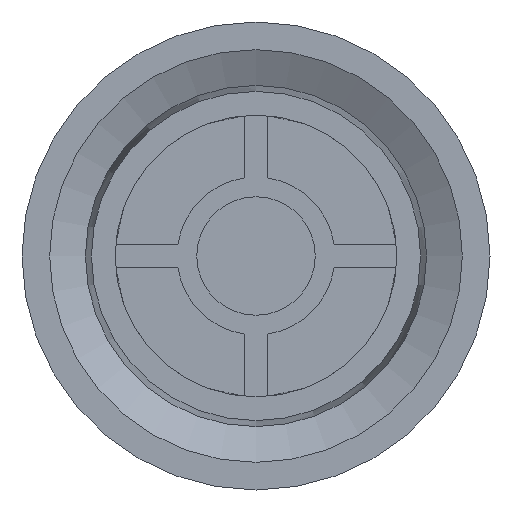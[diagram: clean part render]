
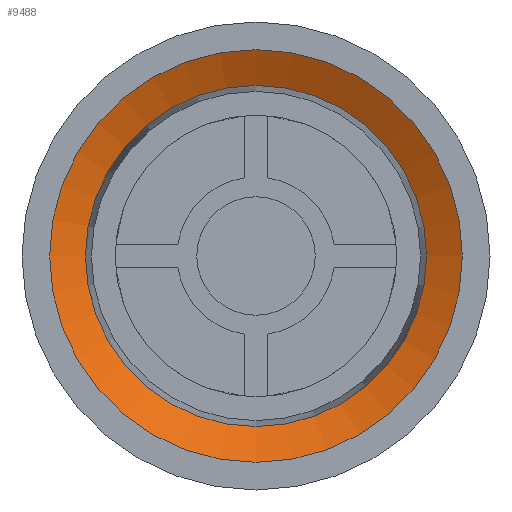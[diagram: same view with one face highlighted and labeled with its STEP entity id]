
A CAD part, front view. The second image highlights one B-rep face of the part: STEP entity #9488.
In plain terms, the highlighted conical face has half-angle 64.058 degrees and reference radius 10.45 mm.
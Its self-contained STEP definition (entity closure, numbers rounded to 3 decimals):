
#32 = ORIENTED_EDGE ( 'NONE', *, *, #3755, .F. ) ;
#662 = CARTESIAN_POINT ( 'NONE',  ( 0., 1.524, 0. ) ) ;
#741 = DIRECTION ( 'NONE',  ( 0., -1., 0. ) ) ;
#823 = CARTESIAN_POINT ( 'NONE',  ( 0., 1.524, -10.45 ) ) ;
#1167 = EDGE_LOOP ( 'NONE', ( #32 ) ) ;
#1523 = DIRECTION ( 'NONE',  ( 0., 0., -1. ) ) ;
#1665 = DIRECTION ( 'NONE',  ( 0., 0., -1. ) ) ;
#3174 = CARTESIAN_POINT ( 'NONE',  ( 0., 1.524, 0. ) ) ;
#3755 = EDGE_CURVE ( 'NONE', #6244, #6244, #10163, .T. ) ;
#4162 = DIRECTION ( 'NONE',  ( 0., -1., 0. ) ) ;
#4455 = AXIS2_PLACEMENT_3D ( 'NONE', #6340, #741, #1665 ) ;
#4962 = DIRECTION ( 'NONE',  ( 0., -1., 0. ) ) ;
#6008 = EDGE_CURVE ( 'NONE', #7463, #7463, #7414, .T. ) ;
#6194 = FACE_OUTER_BOUND ( 'NONE', #8715, .T. ) ;
#6244 = VERTEX_POINT ( 'NONE', #9992 ) ;
#6340 = CARTESIAN_POINT ( 'NONE',  ( 0., 2.406, 0. ) ) ;
#7414 = CIRCLE ( 'NONE', #9592, 10.45 ) ;
#7463 = VERTEX_POINT ( 'NONE', #823 ) ;
#7688 = AXIS2_PLACEMENT_3D ( 'NONE', #662, #4162, #1523 ) ;
#8488 = CONICAL_SURFACE ( 'NONE', #7688, 10.45, 1.118 ) ;
#8715 = EDGE_LOOP ( 'NONE', ( #10110 ) ) ;
#9488 = ADVANCED_FACE ( 'NONE', ( #10934, #6194 ), #8488, .F. ) ;
#9592 = AXIS2_PLACEMENT_3D ( 'NONE', #3174, #4962, #9650 ) ;
#9650 = DIRECTION ( 'NONE',  ( 0., 0., -1. ) ) ;
#9992 = CARTESIAN_POINT ( 'NONE',  ( 0., 2.406, -8.637 ) ) ;
#10110 = ORIENTED_EDGE ( 'NONE', *, *, #6008, .T. ) ;
#10163 = CIRCLE ( 'NONE', #4455, 8.637 ) ;
#10934 = FACE_BOUND ( 'NONE', #1167, .T. ) ;
